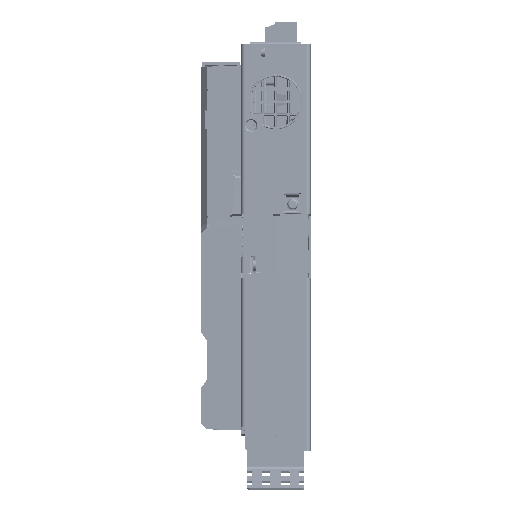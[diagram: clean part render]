
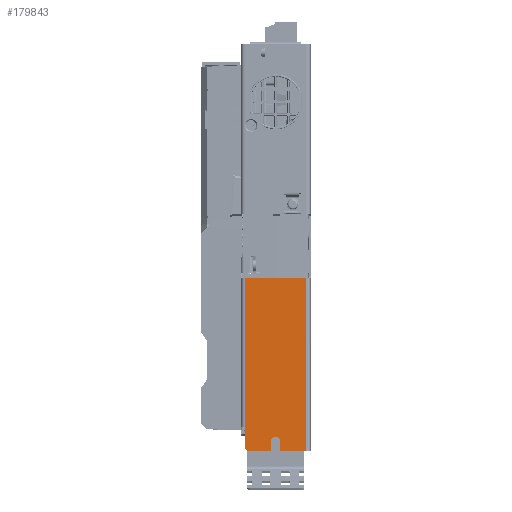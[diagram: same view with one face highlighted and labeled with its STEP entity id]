
A CAD part, top view. The second image highlights one B-rep face of the part: STEP entity #179843.
In plain terms, the highlighted planar face has unit normal (0, 0, 1).
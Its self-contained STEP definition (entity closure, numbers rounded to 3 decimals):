
#173251=CARTESIAN_POINT('',(4.414,-49.,7.3));
#173252=DIRECTION('',(0.,0.,1.));
#173253=DIRECTION('',(-0.707,-0.707,0.));
#173254=AXIS2_PLACEMENT_3D('',#173251,#173252,#173253);
#173256=DIRECTION('',(0.707,-0.707,0.));
#173257=VECTOR('',#173256,1.293);
#173258=CARTESIAN_POINT('',(2.793,-48.793,7.3));
#173259=LINE('',#173258,#173257);
#173260=CARTESIAN_POINT('',(3.5,-48.086,7.3));
#173261=DIRECTION('',(0.,0.,1.));
#173262=DIRECTION('',(-1.,0.,0.));
#173263=AXIS2_PLACEMENT_3D('',#173260,#173261,#173262);
#173265=DIRECTION('',(0.,1.,0.));
#173266=VECTOR('',#173265,12.286);
#173267=CARTESIAN_POINT('',(2.5,-48.086,7.3));
#173268=LINE('',#173267,#173266);
#173269=DIRECTION('',(-1.,0.,0.));
#173270=VECTOR('',#173269,0.2);
#173271=CARTESIAN_POINT('',(2.5,-35.8,7.3));
#173272=LINE('',#173271,#173270);
#173273=DIRECTION('',(-1.,0.,0.));
#173274=VECTOR('',#173273,35.2);
#173275=CARTESIAN_POINT('',(37.5,49.3,7.3));
#173276=LINE('',#173275,#173274);
#173277=DIRECTION('',(-1.,0.,0.));
#173278=VECTOR('',#173277,13.9);
#173279=CARTESIAN_POINT('',(37.5,-50.,7.3));
#173280=LINE('',#173279,#173278);
#173281=CARTESIAN_POINT('',(23.6,-49.,7.3));
#173282=DIRECTION('',(0.,0.,1.));
#173283=DIRECTION('',(-1.,0.,0.));
#173284=AXIS2_PLACEMENT_3D('',#173281,#173282,#173283);
#173286=DIRECTION('',(0.,1.,0.));
#173287=VECTOR('',#173286,5.);
#173288=CARTESIAN_POINT('',(22.6,-49.,7.3));
#173289=LINE('',#173288,#173287);
#173290=CARTESIAN_POINT('',(20.,-44.,7.3));
#173291=DIRECTION('',(0.,0.,-1.));
#173292=DIRECTION('',(-1.,0.,0.));
#173293=AXIS2_PLACEMENT_3D('',#173290,#173291,#173292);
#173295=DIRECTION('',(0.,1.,0.));
#173296=VECTOR('',#173295,5.);
#173297=CARTESIAN_POINT('',(17.4,-49.,7.3));
#173298=LINE('',#173297,#173296);
#173299=CARTESIAN_POINT('',(16.4,-49.,7.3));
#173300=DIRECTION('',(0.,0.,1.));
#173301=DIRECTION('',(0.,-1.,0.));
#173302=AXIS2_PLACEMENT_3D('',#173299,#173300,#173301);
#173304=DIRECTION('',(-1.,0.,0.));
#173305=VECTOR('',#173304,11.986);
#173306=CARTESIAN_POINT('',(16.4,-50.,7.3));
#173307=LINE('',#173306,#173305);
#174068=DIRECTION('',(0.,-1.,0.));
#174069=VECTOR('',#174068,99.3);
#174070=CARTESIAN_POINT('',(37.5,49.3,7.3));
#174071=LINE('',#174070,#174069);
#175329=DIRECTION('',(0.,1.,0.));
#175330=VECTOR('',#175329,85.1);
#175331=CARTESIAN_POINT('',(2.3,-35.8,7.3));
#175332=LINE('',#175331,#175330);
#178031=CARTESIAN_POINT('',(37.5,-50.,7.3));
#178033=VERTEX_POINT('',#178031);
#178059=CARTESIAN_POINT('',(37.5,49.3,7.3));
#178060=CARTESIAN_POINT('',(2.3,49.3,7.3));
#178061=VERTEX_POINT('',#178059);
#178062=VERTEX_POINT('',#178060);
#178122=CARTESIAN_POINT('',(2.3,-35.8,7.3));
#178124=VERTEX_POINT('',#178122);
#178161=CARTESIAN_POINT('',(17.4,-44.,7.3));
#178162=CARTESIAN_POINT('',(22.6,-44.,7.3));
#178163=VERTEX_POINT('',#178161);
#178164=VERTEX_POINT('',#178162);
#178385=CARTESIAN_POINT('',(22.6,-49.,7.3));
#178386=VERTEX_POINT('',#178385);
#178387=CARTESIAN_POINT('',(23.6,-50.,7.3));
#178388=VERTEX_POINT('',#178387);
#178393=CARTESIAN_POINT('',(16.4,-50.,7.3));
#178394=VERTEX_POINT('',#178393);
#178395=CARTESIAN_POINT('',(17.4,-49.,7.3));
#178396=VERTEX_POINT('',#178395);
#178439=CARTESIAN_POINT('',(2.5,-35.8,7.3));
#178440=VERTEX_POINT('',#178439);
#178729=CARTESIAN_POINT('',(3.707,-49.707,7.3));
#178730=VERTEX_POINT('',#178729);
#178731=CARTESIAN_POINT('',(4.414,-50.,7.3));
#178732=VERTEX_POINT('',#178731);
#178733=CARTESIAN_POINT('',(2.5,-48.086,7.3));
#178734=CARTESIAN_POINT('',(2.793,-48.793,7.3));
#178735=VERTEX_POINT('',#178733);
#178736=VERTEX_POINT('',#178734);
#179806=CARTESIAN_POINT('',(20.,183.,7.3));
#179807=DIRECTION('',(0.,0.,-1.));
#179808=DIRECTION('',(-1.,0.,0.));
#179809=AXIS2_PLACEMENT_3D('',#179806,#179807,#179808);
#179810=PLANE('',#179809);
#179812=ORIENTED_EDGE('',*,*,#179811,.F.);
#179814=ORIENTED_EDGE('',*,*,#179813,.F.);
#179816=ORIENTED_EDGE('',*,*,#179815,.F.);
#179818=ORIENTED_EDGE('',*,*,#179817,.T.);
#179820=ORIENTED_EDGE('',*,*,#179819,.T.);
#179822=ORIENTED_EDGE('',*,*,#179821,.T.);
#179824=ORIENTED_EDGE('',*,*,#179823,.F.);
#179826=ORIENTED_EDGE('',*,*,#179825,.T.);
#179828=ORIENTED_EDGE('',*,*,#179827,.T.);
#179830=ORIENTED_EDGE('',*,*,#179829,.F.);
#179832=ORIENTED_EDGE('',*,*,#179831,.T.);
#179834=ORIENTED_EDGE('',*,*,#179833,.F.);
#179836=ORIENTED_EDGE('',*,*,#179835,.F.);
#179838=ORIENTED_EDGE('',*,*,#179837,.F.);
#179840=ORIENTED_EDGE('',*,*,#179839,.T.);
#179841=EDGE_LOOP('',(#179812,#179814,#179816,#179818,#179820,#179822,#179824,
#179826,#179828,#179830,#179832,#179834,#179836,#179838,#179840));
#179842=FACE_OUTER_BOUND('',#179841,.F.);
#179843=ADVANCED_FACE('',(#179842),#179810,.F.);
#173255=CIRCLE('',#173254,1.);
#173264=CIRCLE('',#173263,1.);
#173285=CIRCLE('',#173284,1.);
#173294=CIRCLE('',#173293,2.6);
#173303=CIRCLE('',#173302,1.);
#179811=EDGE_CURVE('',#178730,#178732,#173255,.T.);
#179813=EDGE_CURVE('',#178736,#178730,#173259,.T.);
#179815=EDGE_CURVE('',#178735,#178736,#173264,.T.);
#179817=EDGE_CURVE('',#178735,#178440,#173268,.T.);
#179819=EDGE_CURVE('',#178440,#178124,#173272,.T.);
#179821=EDGE_CURVE('',#178124,#178062,#175332,.T.);
#179823=EDGE_CURVE('',#178061,#178062,#173276,.T.);
#179825=EDGE_CURVE('',#178061,#178033,#174071,.T.);
#179827=EDGE_CURVE('',#178033,#178388,#173280,.T.);
#179829=EDGE_CURVE('',#178386,#178388,#173285,.T.);
#179831=EDGE_CURVE('',#178386,#178164,#173289,.T.);
#179833=EDGE_CURVE('',#178163,#178164,#173294,.T.);
#179835=EDGE_CURVE('',#178396,#178163,#173298,.T.);
#179837=EDGE_CURVE('',#178394,#178396,#173303,.T.);
#179839=EDGE_CURVE('',#178394,#178732,#173307,.T.);
